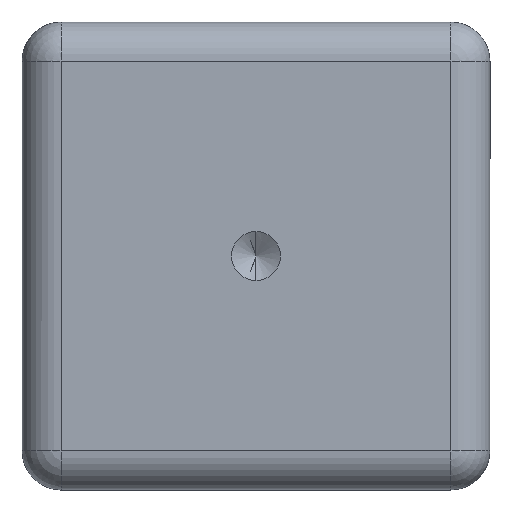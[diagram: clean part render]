
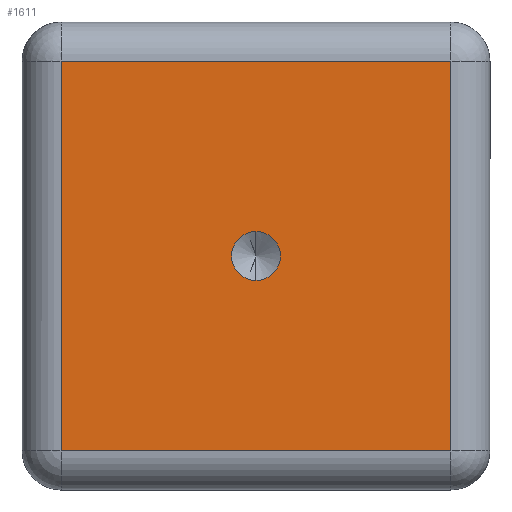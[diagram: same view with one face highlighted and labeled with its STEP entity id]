
A CAD part, front view. The second image highlights one B-rep face of the part: STEP entity #1611.
In plain terms, the highlighted planar face has unit normal (0, -1, 0).
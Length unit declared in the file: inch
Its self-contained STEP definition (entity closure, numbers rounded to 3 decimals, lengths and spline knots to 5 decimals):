
#35 = CARTESIAN_POINT ( 'NONE',  ( 1.25, 0., 0. ) ) ;
#65 = CARTESIAN_POINT ( 'NONE',  ( 0., 0., 0.15625 ) ) ;
#114 = DIRECTION ( 'NONE',  ( 0., 0., 1. ) ) ;
#234 = VERTEX_POINT ( 'NONE', #802 ) ;
#278 = CARTESIAN_POINT ( 'NONE',  ( 0., 0., 1.25 ) ) ;
#334 = FACE_OUTER_BOUND ( 'NONE', #1434, .T. ) ;
#427 = DIRECTION ( 'NONE',  ( 0., -1., 0. ) ) ;
#449 = ORIENTED_EDGE ( 'NONE', *, *, #4222, .T. ) ;
#547 = EDGE_LOOP ( 'NONE', ( #1064, #4312 ) ) ;
#787 = LINE ( 'NONE', #1980, #1676 ) ;
#802 = CARTESIAN_POINT ( 'NONE',  ( 0., 0., -0.15625 ) ) ;
#960 = AXIS2_PLACEMENT_3D ( 'NONE', #1381, #3712, #1708 ) ;
#991 = VERTEX_POINT ( 'NONE', #3496 ) ;
#1064 = ORIENTED_EDGE ( 'NONE', *, *, #2979, .F. ) ;
#1155 = LINE ( 'NONE', #278, #1941 ) ;
#1156 = CIRCLE ( 'NONE', #960, 0.15625 ) ;
#1166 = ORIENTED_EDGE ( 'NONE', *, *, #4141, .T. ) ;
#1281 = CARTESIAN_POINT ( 'NONE',  ( -1.25, 0., 0. ) ) ;
#1283 = CARTESIAN_POINT ( 'NONE',  ( -1.25, 0., 1.25 ) ) ;
#1297 = AXIS2_PLACEMENT_3D ( 'NONE', #2775, #2107, #114 ) ;
#1381 = CARTESIAN_POINT ( 'NONE',  ( 0., 0., 0. ) ) ;
#1408 = LINE ( 'NONE', #1281, #4068 ) ;
#1434 = EDGE_LOOP ( 'NONE', ( #3830, #449, #4178, #1166 ) ) ;
#1551 = EDGE_CURVE ( 'NONE', #3075, #234, #3974, .T. ) ;
#1611 = ADVANCED_FACE ( 'NONE', ( #3879, #334 ), #1771, .F. ) ;
#1676 = VECTOR ( 'NONE', #4317, 39.37008 ) ;
#1708 = DIRECTION ( 'NONE',  ( 0., 0., -1. ) ) ;
#1771 = PLANE ( 'NONE',  #1297 ) ;
#1870 = CARTESIAN_POINT ( 'NONE',  ( -1.25, 0., -1.25 ) ) ;
#1907 = EDGE_CURVE ( 'NONE', #3387, #4303, #787, .T. ) ;
#1941 = VECTOR ( 'NONE', #2602, 39.37008 ) ;
#1980 = CARTESIAN_POINT ( 'NONE',  ( 0., 0., -1.25 ) ) ;
#2107 = DIRECTION ( 'NONE',  ( 0., 1., 0. ) ) ;
#2210 = EDGE_CURVE ( 'NONE', #991, #2238, #1155, .T. ) ;
#2238 = VERTEX_POINT ( 'NONE', #1283 ) ;
#2331 = DIRECTION ( 'NONE',  ( 0., 0., 1. ) ) ;
#2395 = VECTOR ( 'NONE', #2331, 39.37008 ) ;
#2410 = CARTESIAN_POINT ( 'NONE',  ( 0., 0., 0. ) ) ;
#2602 = DIRECTION ( 'NONE',  ( -1., 0., 0. ) ) ;
#2763 = DIRECTION ( 'NONE',  ( 0., 0., -1. ) ) ;
#2775 = CARTESIAN_POINT ( 'NONE',  ( 0., 0., 0. ) ) ;
#2979 = EDGE_CURVE ( 'NONE', #234, #3075, #1156, .T. ) ;
#2993 = CARTESIAN_POINT ( 'NONE',  ( 1.25, 0., -1.25 ) ) ;
#3075 = VERTEX_POINT ( 'NONE', #65 ) ;
#3387 = VERTEX_POINT ( 'NONE', #1870 ) ;
#3496 = CARTESIAN_POINT ( 'NONE',  ( 1.25, 0., 1.25 ) ) ;
#3614 = DIRECTION ( 'NONE',  ( 0., 0., -1. ) ) ;
#3712 = DIRECTION ( 'NONE',  ( 0., -1., 0. ) ) ;
#3830 = ORIENTED_EDGE ( 'NONE', *, *, #2210, .T. ) ;
#3879 = FACE_BOUND ( 'NONE', #547, .T. ) ;
#3974 = CIRCLE ( 'NONE', #4073, 0.15625 ) ;
#4068 = VECTOR ( 'NONE', #3614, 39.37008 ) ;
#4073 = AXIS2_PLACEMENT_3D ( 'NONE', #2410, #427, #2763 ) ;
#4141 = EDGE_CURVE ( 'NONE', #4303, #991, #4172, .T. ) ;
#4172 = LINE ( 'NONE', #35, #2395 ) ;
#4178 = ORIENTED_EDGE ( 'NONE', *, *, #1907, .T. ) ;
#4222 = EDGE_CURVE ( 'NONE', #2238, #3387, #1408, .T. ) ;
#4303 = VERTEX_POINT ( 'NONE', #2993 ) ;
#4312 = ORIENTED_EDGE ( 'NONE', *, *, #1551, .F. ) ;
#4317 = DIRECTION ( 'NONE',  ( 1., 0., 0. ) ) ;
